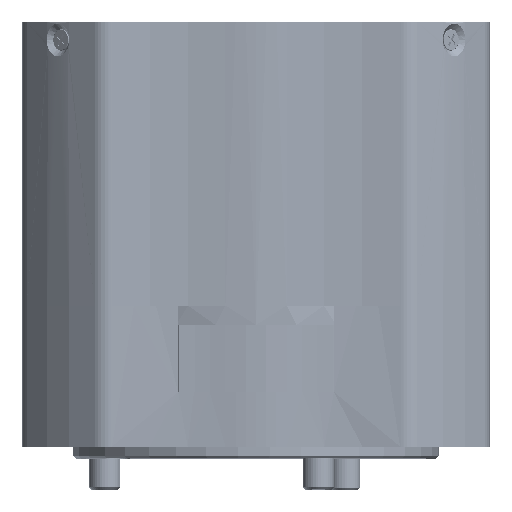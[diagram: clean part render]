
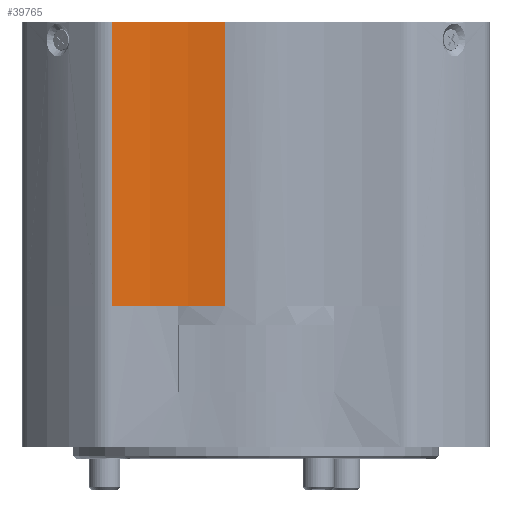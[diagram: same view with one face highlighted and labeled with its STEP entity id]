
A CAD part, top view. The second image highlights one B-rep face of the part: STEP entity #39765.
In plain terms, the highlighted cylindrical face has radius 50 mm (diameter 100 mm), a partial arc.
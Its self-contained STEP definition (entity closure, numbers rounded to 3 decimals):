
#29522 = DIRECTION ( 'NONE',  ( 0., 1., 0. ) ) ;
#36433 = ORIENTED_EDGE ( 'NONE', *, *, #45483, .T. ) ;
#39765 = ADVANCED_FACE ( 'NONE', ( #404119 ), #84541, .F. ) ;
#45483 = EDGE_CURVE ( 'NONE', #307878, #340524, #237261, .T. ) ;
#49281 = CARTESIAN_POINT ( 'NONE',  ( -10.47, 36.4, 79.312 ) ) ;
#51986 = DIRECTION ( 'NONE',  ( 0., 0., 1. ) ) ;
#54272 = DIRECTION ( 'NONE',  ( 0., -1., 0. ) ) ;
#75889 = EDGE_CURVE ( 'NONE', #227228, #340524, #227356, .T. ) ;
#84541 = CYLINDRICAL_SURFACE ( 'NONE', #283453, 50. ) ;
#89111 = CARTESIAN_POINT ( 'NONE',  ( -10.47, -2.5, 79.312 ) ) ;
#119600 = DIRECTION ( 'NONE',  ( 0., 1., 0. ) ) ;
#122029 = CARTESIAN_POINT ( 'NONE',  ( -10.47, 0., 79.312 ) ) ;
#133459 = VECTOR ( 'NONE', #241256, 1000. ) ;
#133914 = LINE ( 'NONE', #280828, #133459 ) ;
#149515 = CARTESIAN_POINT ( 'NONE',  ( -3.926, 0., 29.742 ) ) ;
#158855 = DIRECTION ( 'NONE',  ( 0., 0., 1. ) ) ;
#165129 = ORIENTED_EDGE ( 'NONE', *, *, #75889, .F. ) ;
#174786 = CARTESIAN_POINT ( 'NONE',  ( -18.494, 0., 29.96 ) ) ;
#227228 = VERTEX_POINT ( 'NONE', #296445 ) ;
#227356 = CIRCLE ( 'NONE', #346408, 50. ) ;
#237261 = LINE ( 'NONE', #239570, #348136 ) ;
#239570 = CARTESIAN_POINT ( 'NONE',  ( -3.926, -2.5, 29.742 ) ) ;
#240593 = EDGE_LOOP ( 'NONE', ( #270050, #36433, #165129, #262534 ) ) ;
#241256 = DIRECTION ( 'NONE',  ( 0., 1., 0. ) ) ;
#262534 = ORIENTED_EDGE ( 'NONE', *, *, #325093, .F. ) ;
#270050 = ORIENTED_EDGE ( 'NONE', *, *, #391611, .T. ) ;
#280828 = CARTESIAN_POINT ( 'NONE',  ( -18.494, -2.5, 29.96 ) ) ;
#283453 = AXIS2_PLACEMENT_3D ( 'NONE', #89111, #119600, #334079 ) ;
#290267 = CARTESIAN_POINT ( 'NONE',  ( -3.926, 36.4, 29.742 ) ) ;
#296445 = CARTESIAN_POINT ( 'NONE',  ( -18.494, 36.4, 29.96 ) ) ;
#298846 = DIRECTION ( 'NONE',  ( 0., -1., 0. ) ) ;
#307029 = CIRCLE ( 'NONE', #433622, 50. ) ;
#307878 = VERTEX_POINT ( 'NONE', #149515 ) ;
#325093 = EDGE_CURVE ( 'NONE', #435272, #227228, #133914, .T. ) ;
#334079 = DIRECTION ( 'NONE',  ( 0., 0., 1. ) ) ;
#340524 = VERTEX_POINT ( 'NONE', #290267 ) ;
#346408 = AXIS2_PLACEMENT_3D ( 'NONE', #49281, #298846, #158855 ) ;
#348136 = VECTOR ( 'NONE', #29522, 1000. ) ;
#391611 = EDGE_CURVE ( 'NONE', #435272, #307878, #307029, .T. ) ;
#404119 = FACE_OUTER_BOUND ( 'NONE', #240593, .T. ) ;
#433622 = AXIS2_PLACEMENT_3D ( 'NONE', #122029, #54272, #51986 ) ;
#435272 = VERTEX_POINT ( 'NONE', #174786 ) ;
